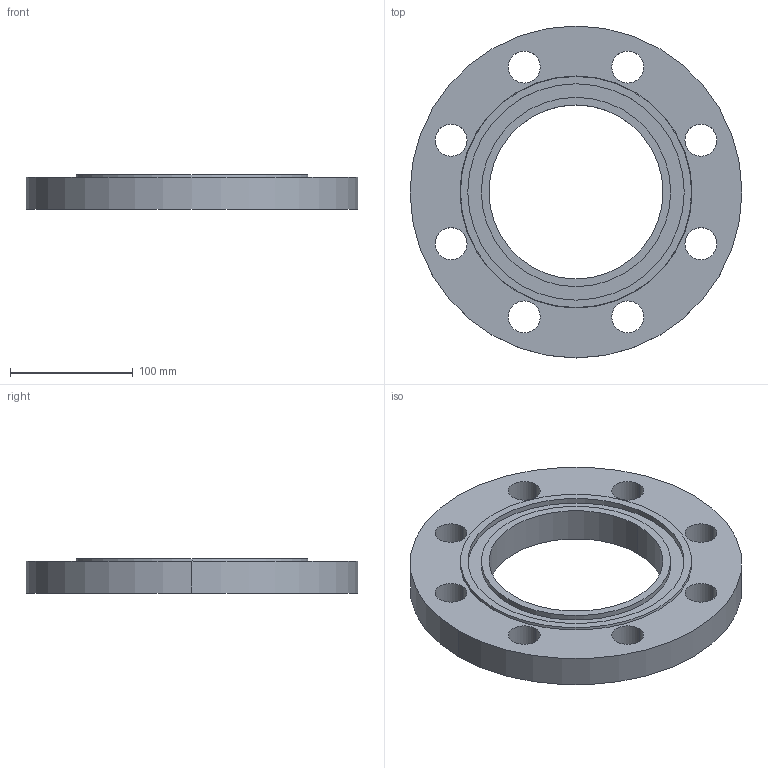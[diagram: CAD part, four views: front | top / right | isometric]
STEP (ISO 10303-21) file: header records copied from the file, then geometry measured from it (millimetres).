
FILE_DESCRIPTION (( 'STEP AP214' ), '1' );
FILE_NAME ('PN40 DN125 Type 01 - Type D Face.STEP', '2019-01-02T19:39:51', ( '' ), ( '' ), 'SwSTEP 2.0', 'SolidWorks 2019', '' );
FILE_SCHEMA (( 'AUTOMOTIVE_DESIGN' ));
Length unit declared in the file: millimetre
Products named in the file (1): PN40 DN125 Type 01 - Type D Face
Bounding box: 270 x 270 x 28 mm (x, y, z)
Volume: 967966 mm3; surface area: 131714.3 mm2
Topology: 1 solids, 1 shells, 31 faces, 78 edges, 52 vertices
Faces by surface type: cylinder 24, plane 5, cone 2
Entity records: 1034 total; most frequent: DIRECTION 194, CARTESIAN_POINT 162, ORIENTED_EDGE 156, AXIS2_PLACEMENT_3D 84, EDGE_CURVE 78, CIRCLE 52, EDGE_LOOP 52, VERTEX_POINT 52
